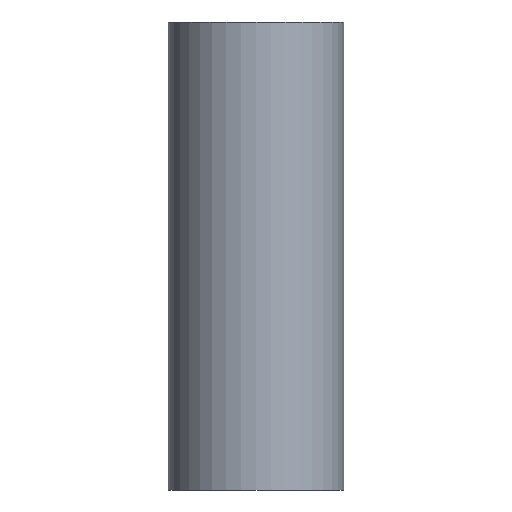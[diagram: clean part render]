
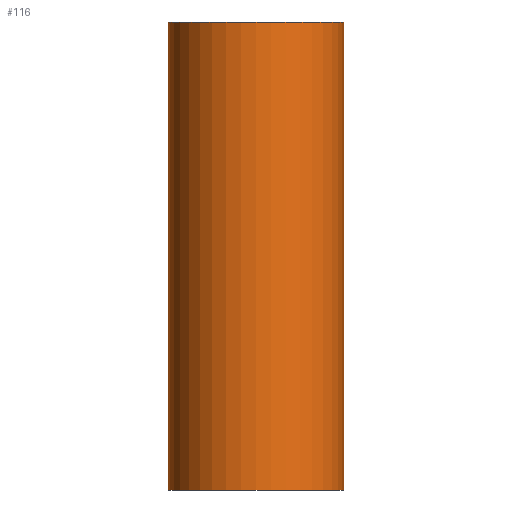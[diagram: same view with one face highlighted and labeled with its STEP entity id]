
A CAD part, left-side view. The second image highlights one B-rep face of the part: STEP entity #116.
In plain terms, the highlighted cylindrical face has radius 157.5 mm (diameter 315 mm), a full revolution.
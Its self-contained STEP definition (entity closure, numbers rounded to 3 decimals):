
#23=FACE_BOUND('',#51,.T.);
#24=FACE_BOUND('',#52,.T.);
#30=CIRCLE('',#151,157.5);
#31=CIRCLE('',#153,157.5);
#37=FACE_OUTER_BOUND('',#50,.T.);
#50=EDGE_LOOP('',(#93));
#51=EDGE_LOOP('',(#94,#95));
#52=EDGE_LOOP('',(#96));
#57=ELLIPSE('',#146,411.567,157.5);
#58=ELLIPSE('',#147,170.477,157.5);
#64=VERTEX_POINT('',#205);
#65=VERTEX_POINT('',#206);
#67=VERTEX_POINT('',#213);
#68=VERTEX_POINT('',#216);
#74=EDGE_CURVE('',#64,#65,#57,.T.);
#75=EDGE_CURVE('',#65,#64,#58,.T.);
#77=EDGE_CURVE('',#67,#67,#30,.T.);
#78=EDGE_CURVE('',#68,#68,#31,.T.);
#93=ORIENTED_EDGE('',*,*,#77,.T.);
#94=ORIENTED_EDGE('',*,*,#75,.T.);
#95=ORIENTED_EDGE('',*,*,#74,.T.);
#96=ORIENTED_EDGE('',*,*,#78,.F.);
#102=CYLINDRICAL_SURFACE('',#152,157.5);
#116=ADVANCED_FACE('',(#37,#23,#24),#102,.T.);
#146=AXIS2_PLACEMENT_3D('',#207,#173,#174);
#147=AXIS2_PLACEMENT_3D('',#208,#175,#176);
#151=AXIS2_PLACEMENT_3D('',#214,#183,#184);
#152=AXIS2_PLACEMENT_3D('',#215,#185,#186);
#153=AXIS2_PLACEMENT_3D('',#217,#187,#188);
#173=DIRECTION('center_axis',(-0.924,0.,0.383));
#174=DIRECTION('ref_axis',(-0.383,0.,-0.924));
#175=DIRECTION('center_axis',(-0.383,0.,-0.924));
#176=DIRECTION('ref_axis',(0.924,0.,-0.383));
#183=DIRECTION('center_axis',(0.,0.,-1.));
#184=DIRECTION('ref_axis',(1.,0.,0.));
#185=DIRECTION('center_axis',(0.,0.,-1.));
#186=DIRECTION('ref_axis',(-1.,0.,0.));
#187=DIRECTION('center_axis',(0.,0.,-1.));
#188=DIRECTION('ref_axis',(1.,0.,0.));
#205=CARTESIAN_POINT('',(0.,-157.5,280.));
#206=CARTESIAN_POINT('',(0.,157.5,280.));
#207=CARTESIAN_POINT('Origin',(0.,0.,280.));
#208=CARTESIAN_POINT('Origin',(0.,0.,280.));
#213=CARTESIAN_POINT('',(-157.5,0.,840.));
#214=CARTESIAN_POINT('Origin',(0.,0.,840.));
#215=CARTESIAN_POINT('Origin',(0.,0.,420.));
#216=CARTESIAN_POINT('',(-157.5,0.,0.));
#217=CARTESIAN_POINT('Origin',(0.,0.,0.));
